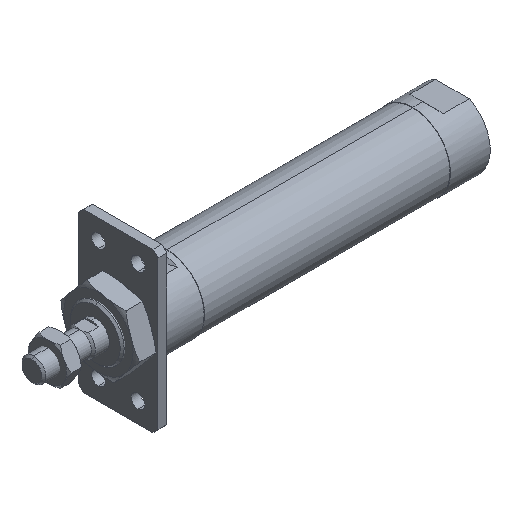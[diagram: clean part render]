
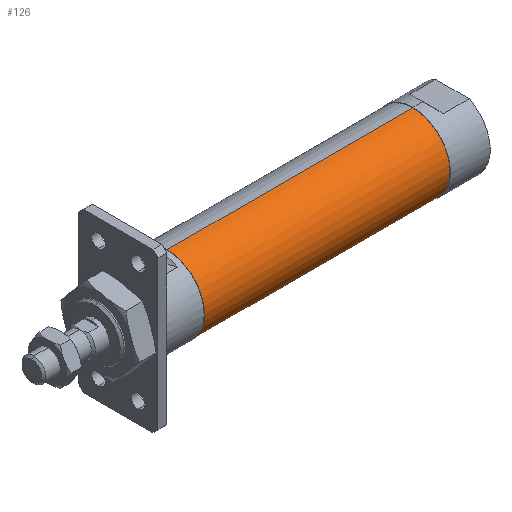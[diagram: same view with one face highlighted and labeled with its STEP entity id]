
A CAD part, isometric view. The second image highlights one B-rep face of the part: STEP entity #126.
In plain terms, the highlighted cylindrical face has radius 18.8 mm (diameter 37.6 mm), a partial arc.
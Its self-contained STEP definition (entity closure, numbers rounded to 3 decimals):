
#109 = ORIENTED_EDGE ( 'NONE', *, *, #999, .F. ) ;
#126 = ADVANCED_FACE ( 'NONE', ( #374 ), #3696, .T. ) ;
#191 = DIRECTION ( 'NONE',  ( -1., 0., 0. ) ) ;
#230 = CIRCLE ( 'NONE', #1439, 18.8 ) ;
#295 = DIRECTION ( 'NONE',  ( -1., 0., 0. ) ) ;
#331 = CARTESIAN_POINT ( 'NONE',  ( 68., 0., -18.8 ) ) ;
#352 = DIRECTION ( 'NONE',  ( 0., 0., 1. ) ) ;
#374 = FACE_OUTER_BOUND ( 'NONE', #1996, .T. ) ;
#506 = VECTOR ( 'NONE', #2747, 1000. ) ;
#677 = ORIENTED_EDGE ( 'NONE', *, *, #3798, .T. ) ;
#971 = AXIS2_PLACEMENT_3D ( 'NONE', #2583, #3549, #352 ) ;
#999 = EDGE_CURVE ( 'NONE', #2931, #1071, #230, .T. ) ;
#1059 = VERTEX_POINT ( 'NONE', #3749 ) ;
#1071 = VERTEX_POINT ( 'NONE', #4089 ) ;
#1080 = VECTOR ( 'NONE', #191, 1000. ) ;
#1102 = CARTESIAN_POINT ( 'NONE',  ( -1.784, 0., -18.8 ) ) ;
#1204 = LINE ( 'NONE', #1102, #506 ) ;
#1439 = AXIS2_PLACEMENT_3D ( 'NONE', #2156, #3415, #4023 ) ;
#1899 = LINE ( 'NONE', #3664, #1080 ) ;
#1996 = EDGE_LOOP ( 'NONE', ( #4075, #677, #2331, #109 ) ) ;
#2156 = CARTESIAN_POINT ( 'NONE',  ( 68., 0., 0. ) ) ;
#2184 = CARTESIAN_POINT ( 'NONE',  ( -1.784, 0., 0. ) ) ;
#2241 = EDGE_CURVE ( 'NONE', #3959, #2931, #1204, .T. ) ;
#2331 = ORIENTED_EDGE ( 'NONE', *, *, #3307, .T. ) ;
#2500 = DIRECTION ( 'NONE',  ( 0., 0., 1. ) ) ;
#2583 = CARTESIAN_POINT ( 'NONE',  ( 192., 0., 0. ) ) ;
#2747 = DIRECTION ( 'NONE',  ( -1., 0., 0. ) ) ;
#2931 = VERTEX_POINT ( 'NONE', #331 ) ;
#2985 = AXIS2_PLACEMENT_3D ( 'NONE', #2184, #295, #2500 ) ;
#3307 = EDGE_CURVE ( 'NONE', #1059, #1071, #1899, .T. ) ;
#3415 = DIRECTION ( 'NONE',  ( -1., 0., 0. ) ) ;
#3523 = CIRCLE ( 'NONE', #971, 18.8 ) ;
#3549 = DIRECTION ( 'NONE',  ( -1., 0., 0. ) ) ;
#3664 = CARTESIAN_POINT ( 'NONE',  ( -1.784, 0., 18.8 ) ) ;
#3696 = CYLINDRICAL_SURFACE ( 'NONE', #2985, 18.8 ) ;
#3749 = CARTESIAN_POINT ( 'NONE',  ( 192., 0., 18.8 ) ) ;
#3798 = EDGE_CURVE ( 'NONE', #3959, #1059, #3523, .T. ) ;
#3959 = VERTEX_POINT ( 'NONE', #3996 ) ;
#3996 = CARTESIAN_POINT ( 'NONE',  ( 192., 0., -18.8 ) ) ;
#4023 = DIRECTION ( 'NONE',  ( 0., 0., 1. ) ) ;
#4075 = ORIENTED_EDGE ( 'NONE', *, *, #2241, .F. ) ;
#4089 = CARTESIAN_POINT ( 'NONE',  ( 68., 0., 18.8 ) ) ;
